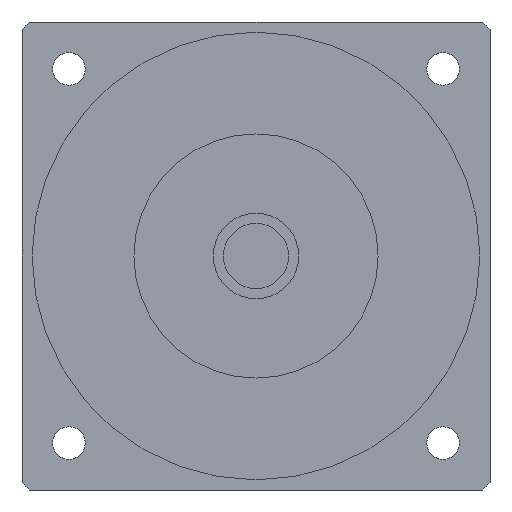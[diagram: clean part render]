
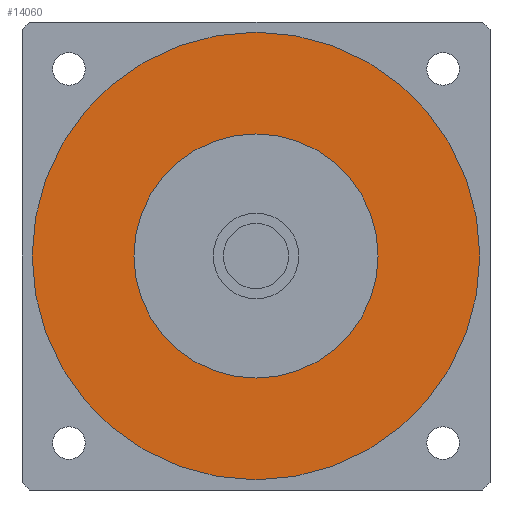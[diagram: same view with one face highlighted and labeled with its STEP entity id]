
A CAD part, left-side view. The second image highlights one B-rep face of the part: STEP entity #14060.
In plain terms, the highlighted planar face has unit normal (-1, 0, 0) as drawn and (0, 0, -1) by its records, which use the part's own axes.
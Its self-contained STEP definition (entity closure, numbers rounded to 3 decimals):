
#13480=CARTESIAN_POINT('',(55.,0.,-42.5));
#13490=VERTEX_POINT('',#13480);
#13580=CARTESIAN_POINT('',(-55.,0.,-42.5));
#13590=VERTEX_POINT('',#13580);
#13620=CARTESIAN_POINT('',(0.,0.,
-42.5));
#13630=DIRECTION('',(0.,0.,1.));
#13640=DIRECTION('',(0.,1.,0.));
#13650=AXIS2_PLACEMENT_3D('',#13620,#13630,#13640);
#13660=CIRCLE('',#13650,55.);
#13670=CARTESIAN_POINT('',(0.,55.,-42.5));
#13680=VERTEX_POINT('',#13670);
#13690=EDGE_CURVE('',#13680,#13590,#13660,.T.);
#13710=EDGE_CURVE('',#13490,#13680,#13660,.T.);
#13760=CARTESIAN_POINT('',(0.,0.,
-42.5));
#13770=DIRECTION('',(0.,0.,1.));
#13780=DIRECTION('',(-1.,0.,0.));
#13790=AXIS2_PLACEMENT_3D('',#13760,#13770,#13780);
#13800=PLANE('',#13790);
#13810=ORIENTED_EDGE('',*,*,#13690,.F.);
#13820=EDGE_CURVE('',#13590,#13490,#13660,.T.);
#13830=ORIENTED_EDGE('',*,*,#13820,.F.);
#13840=ORIENTED_EDGE('',*,*,#13710,.F.);
#13850=EDGE_LOOP('',(#13840,#13830,#13810));
#13860=FACE_OUTER_BOUND('',#13850,.T.);
#13870=CARTESIAN_POINT('',(0.,0.,
-42.5));
#13880=DIRECTION('',(0.,0.,1.));
#13890=DIRECTION('',(0.,1.,0.));
#13900=AXIS2_PLACEMENT_3D('',#13870,#13880,#13890);
#13910=CIRCLE('',#13900,30.);
#13920=CARTESIAN_POINT('',(-30.,0.,-42.5));
#13930=VERTEX_POINT('',#13920);
#13940=CARTESIAN_POINT('',(30.,0.,-42.5));
#13950=VERTEX_POINT('',#13940);
#13960=EDGE_CURVE('',#13930,#13950,#13910,.T.);
#13970=ORIENTED_EDGE('',*,*,#13960,.T.);
#13980=CARTESIAN_POINT('',(0.,30.,-42.5));
#13990=VERTEX_POINT('',#13980);
#14000=EDGE_CURVE('',#13990,#13930,#13910,.T.);
#14010=ORIENTED_EDGE('',*,*,#14000,.T.);
#14020=EDGE_CURVE('',#13950,#13990,#13910,.T.);
#14030=ORIENTED_EDGE('',*,*,#14020,.T.);
#14040=EDGE_LOOP('',(#14030,#14010,#13970));
#14050=FACE_BOUND('',#14040,.T.);
#14060=ADVANCED_FACE('',(#13860,#14050),#13800,.F.);
